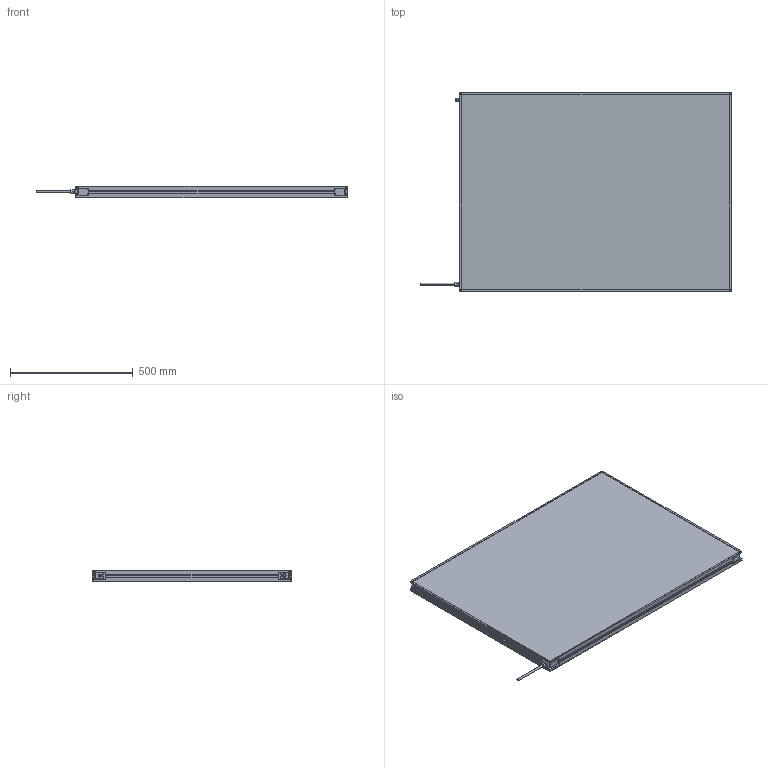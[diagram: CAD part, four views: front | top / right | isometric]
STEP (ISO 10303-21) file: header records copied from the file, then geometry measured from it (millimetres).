
FILE_DESCRIPTION (( 'STEP AP214' ), '1' );
FILE_NAME ('MBACK-xxxx-xxx-M1A2_CLIENT800x1100.STEP', '2022-04-01T11:51:39', ( '' ), ( '' ), 'SwSTEP 2.0', 'SolidWorks 2020', '' );
FILE_SCHEMA (( 'AUTOMOTIVE_DESIGN' ));
Length unit declared in the file: millimetre
Products named in the file (1): MBACK-xxxx-xxx-M1A2_CLIENT800x1100
Bounding box: 1267.4 x 808 x 45.5 mm (x, y, z)
Volume: 37329333.1 mm3; surface area: 2051027.4 mm2
Topology: 1 solids, 1 shells, 470 faces, 1210 edges, 804 vertices
Faces by surface type: plane 265, cylinder 117, bspline 80, cone 8
Entity records: 18046 total; most frequent: CARTESIAN_POINT 6837, ORIENTED_EDGE 2420, DIRECTION 2082, EDGE_CURVE 1210, VERTEX_POINT 804, VECTOR 800, LINE 800, AXIS2_PLACEMENT_3D 641
